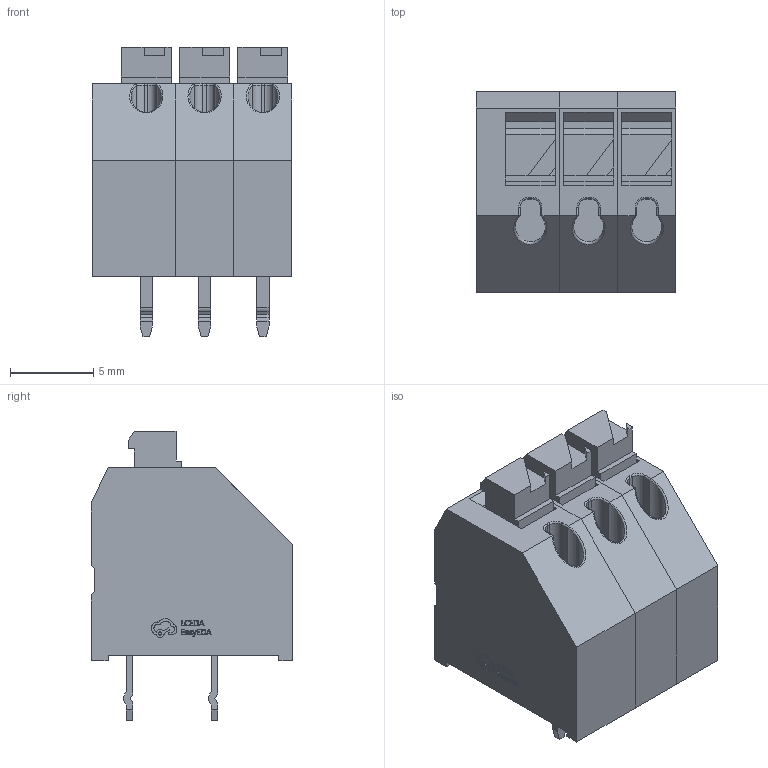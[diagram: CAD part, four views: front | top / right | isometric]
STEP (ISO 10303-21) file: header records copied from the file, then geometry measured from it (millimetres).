
FILE_DESCRIPTION (( 'STEP AP214' ), '1' );
FILE_NAME ('CONN-TH_3P-P3.50_MX250-3.5-03P-B-GY01-CU-A.STEP', '2024-04-09T14:34:22', ( '' ), ( '' ), 'SwSTEP 2.0', 'SolidWorks 2020', '' );
FILE_SCHEMA (( 'AUTOMOTIVE_DESIGN' ));
Length unit declared in the file: millimetre
Products named in the file (1): CONN-TH_3P-P3.50_MX250-3.5-03P-B-GY01-CU-A
Bounding box: 12.01 x 12.1 x 17.4 mm (x, y, z)
Volume: 1498.2 mm3; surface area: 1535.3 mm2
Topology: 6 solids, 6 shells, 509 faces, 1326 edges, 876 vertices
Faces by surface type: plane 319, bspline 101, cylinder 83, torus 6
Entity records: 21804 total; most frequent: CARTESIAN_POINT 4402, ORIENTED_EDGE 2652, DIRECTION 2071, EDGE_CURVE 1326, VECTOR 939, LINE 939, VERTEX_POINT 876, AXIS2_PLACEMENT_3D 566
